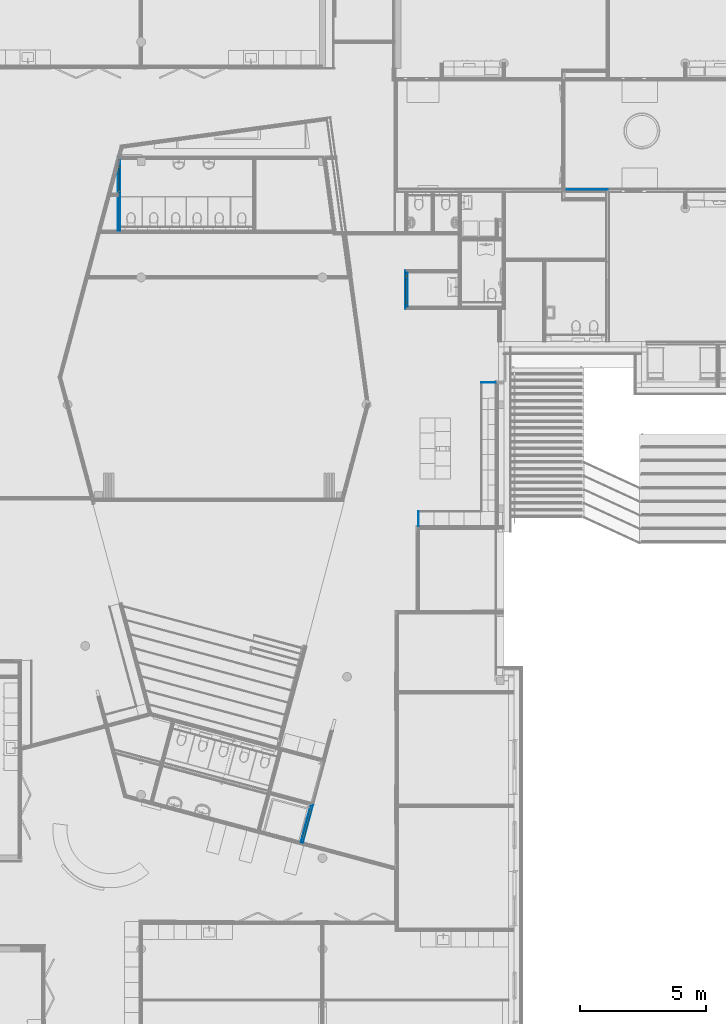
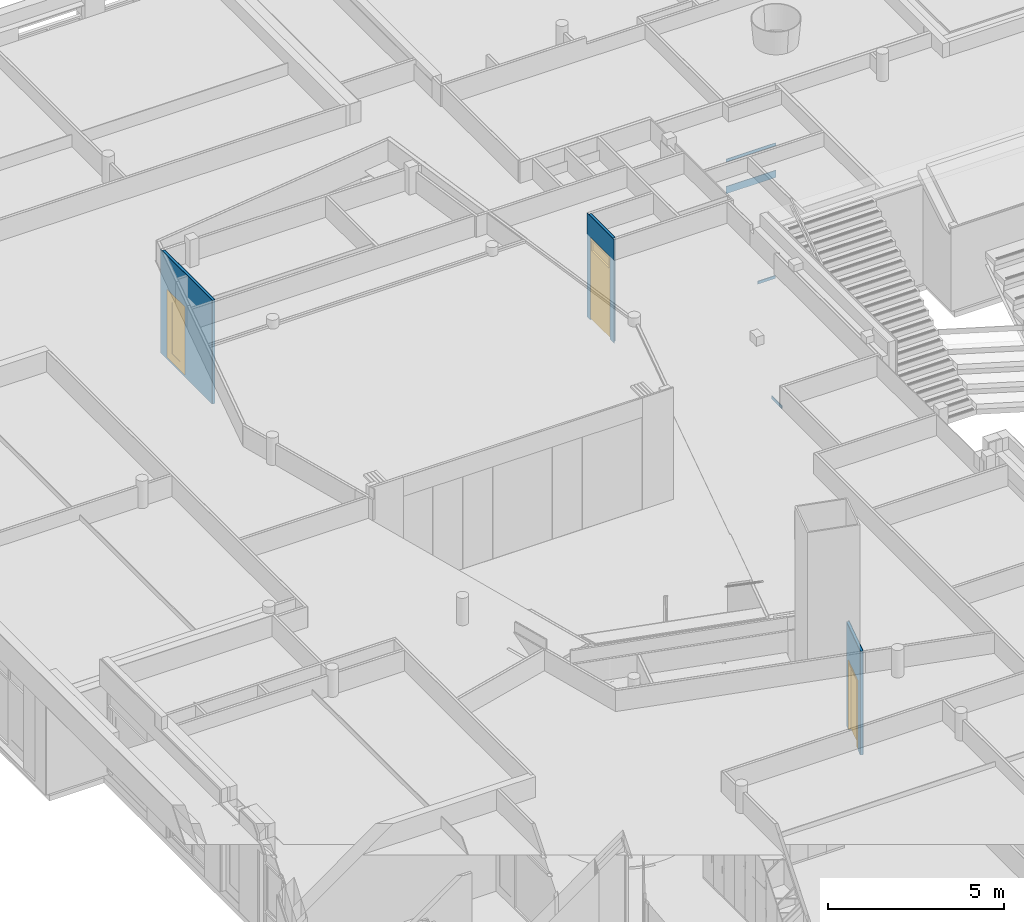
# One storey, part 3 of 167: 9 building element parts, 4 walls, 3 doors, 3 openings, 3 elements without a shape of their own.
"""IFC2X3 building model written with IfcOpenShell, lengths in millimetres."""

from ifc_helpers import new_model, entity, si_unit, converted_unit, derived_unit, money_unit, direction, frame, origin_with_axes, place, context, subcontext, project, spatial, open_shell, faceted_brep, surface_model, source, transform, mapped, material, type_object, type_shapes, element, fill, aggregate, save


model = new_model("IFC2X3")

# Units and contexts
model_context = context("Model", 3, precision=0.01, world=origin_with_axes(), true_north=direction((0.0, 1.0)))
plan_context = context("Plan", 3, precision=0.01, world=origin_with_axes(), true_north=direction((0.0, 1.0)))
body_context = subcontext(model_context, "Body", "Model", "MODEL_VIEW")
ifc_project = project(units=[si_unit("LENGTHUNIT", "METRE", prefix="MILLI"), si_unit("AREAUNIT", "SQUARE_METRE"), si_unit("VOLUMEUNIT", "CUBIC_METRE"), converted_unit("PLANEANGLEUNIT", "DEGREE", entity("IfcPlaneAngleMeasure", 0.0174532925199), si_unit("PLANEANGLEUNIT", "RADIAN"), dimensions=[0, 0, 0, 0, 0, 0, 0]), si_unit("SOLIDANGLEUNIT", "STERADIAN"), money_unit("EUR"), converted_unit("TIMEUNIT", "Year", entity("IfcTimeMeasure", 31556926.0), si_unit("TIMEUNIT", "SECOND"), dimensions=[0, 0, 1, 0, 0, 0, 0]), si_unit("MASSUNIT", "GRAM", prefix="KILO"), si_unit("THERMODYNAMICTEMPERATUREUNIT", "DEGREE_CELSIUS"), si_unit("LUMINOUSINTENSITYUNIT", "LUMEN"), si_unit("ENERGYUNIT", "JOULE", prefix="MEGA"), derived_unit("THERMALCONDUCTANCEUNIT", [(si_unit("POWERUNIT", "WATT"), 1), (si_unit("LENGTHUNIT", "METRE"), -1), (si_unit("THERMODYNAMICTEMPERATUREUNIT", "KELVIN"), -1)]), derived_unit("SPECIFICHEATCAPACITYUNIT", [(si_unit("ENERGYUNIT", "JOULE"), 1), (si_unit("MASSUNIT", "GRAM", prefix="KILO"), -1), (si_unit("THERMODYNAMICTEMPERATUREUNIT", "KELVIN"), -1)]), derived_unit("MASSDENSITYUNIT", [(si_unit("MASSUNIT", "GRAM", prefix="KILO"), 1), (si_unit("VOLUMEUNIT", "CUBIC_METRE"), -1)])], contexts=[model_context, plan_context])

# Site, building, storey
site_placement = place(None, origin_with_axes())
site = spatial("IfcSite", under=ifc_project, at=site_placement, Name="Site", CompositionType="ELEMENT")
building_placement = place(site_placement, origin_with_axes())
building = spatial("IfcBuilding", under=site, at=building_placement, Name="Naam gebouw", CompositionType="ELEMENT")
storey_placement = place(building_placement, origin_with_axes())
storey = spatial("IfcBuildingStorey", under=building, at=storey_placement, Name="Begane grond", CompositionType="ELEMENT", Elevation=0.0)

# Walls
ifc_material_1 = material(Name="Hout - Spaanplaat")
wall_type_1 = type_object("IfcWallType", Name="Hout - Spaanplaat 25", PredefinedType="NOTDEFINED")
wall_1_placement = place(storey_placement, frame((27925.0, 29661.7322881, 2700.0), z_axis=(0.0, 0.0, 1.0), x_axis=(1.0, 0.0, 0.0)))
element("IfcWall", 1, at=wall_1_placement, inside=storey, type_object=wall_type_1, material=ifc_material_1, Name="21_Wand_Wand-x", context=body_context, shape_type="Brep", body=[
    faceted_brep([(-25.0, 25.0, 0.0), (550.0, 25.0, 0.0), (550.0, 0.0, 0.0), (-25.0, 0.0, 0.0), (-25.0, 25.0, 100.0), (550.0, 25.0, 100.0), (550.0, 0.0, 100.0), (-25.0, 0.0, 100.0)], [[[0, 1, 2, 3]], [[4, 5, 1, 0]], [[2, 1, 5, 6]], [[3, 2, 6, 7]], [[4, 0, 3, 7]], [[7, 6, 5, 4]]]),
])
wall_2_placement = place(storey_placement, frame((25430.0, 23979.2322881, 2700.0), z_axis=(0.0, 0.0, 1.0), x_axis=(0.0, 1.0, 0.0)))
element("IfcWall", 2, at=wall_2_placement, inside=storey, type_object=wall_type_1, material=ifc_material_1, Name="21_Wand_Wand-x", context=body_context, shape_type="Brep", body=[
    faceted_brep([(587.5, 25.0, 0.0), (587.5, 0.0, 0.0), (0.0, 0.0, 0.0), (0.0, 25.0, 0.0), (587.5, 25.0, 100.0), (587.5, 0.0, 100.0), (0.0, 0.0, 100.0), (0.0, 25.0, 100.0)], [[[0, 1, 2, 3]], [[1, 0, 4, 5]], [[1, 5, 6, 2]], [[7, 3, 2, 6]], [[4, 0, 3, 7]], [[5, 4, 7, 6]]]),
])

# Door
door_style_1 = type_object("IfcDoorStyle", Name="D1 24", ConstructionType="NOTDEFINED", OperationType="SINGLE_SWING_LEFT", ParameterTakesPrecedence=False, Sizeable=False)
shared_shape_1 = source(origin_with_axes(), body_context, "Body", "SurfaceModel", [
    faceted_brep([(450.0, -40.0, 0.0), (450.0, -114.0, 0.0), (450.0, -114.0, 2300.0), (450.0, -40.0, 2300.0), (475.0, -40.0, 0.0), (475.0, 0.0, 0.0), (517.0, 0.0, 0.0), (517.0, -114.0, 0.0), (517.0, -114.0, 2300.0), (475.0, -40.0, 2300.0), (517.0, 0.0, 2300.0), (475.0, 0.0, 2300.0)], [[[0, 1, 2, 3]], [[4, 5, 6, 7, 1, 0]], [[1, 7, 8, 2]], [[9, 3, 2, 8, 10, 11]], [[9, 4, 0, 3]], [[11, 5, 4, 9]], [[11, 10, 6, 5]], [[6, 10, 8, 7]]]),
    faceted_brep([(-475.0, -40.0, 2300.0), (-475.0, 0.0, 2300.0), (-517.0, 0.0, 2300.0), (-517.0, -114.0, 2300.0), (-450.0, -114.0, 2300.0), (-450.0, -40.0, 2300.0), (-475.0, -40.0, 0.0), (-475.0, 0.0, 0.0), (-517.0, 0.0, 0.0), (-517.0, -114.0, 0.0), (-450.0, -114.0, 0.0), (-450.0, -40.0, 0.0)], [[[0, 1, 2, 3, 4, 5]], [[0, 6, 7, 1]], [[7, 8, 2, 1]], [[2, 8, 9, 3]], [[3, 9, 10, 4]], [[5, 4, 10, 11]], [[5, 11, 6, 0]], [[6, 11, 10, 9, 8, 7]]]),
    faceted_brep([(475.0, 0.0, 2325.0), (-475.0, 0.0, 2325.0), (-475.0, 0.0, 2300.0), (-517.0, 0.0, 2300.0), (-517.0, 0.0, 2367.0), (517.0, 0.0, 2367.0), (517.0, 0.0, 2300.0), (475.0, 0.0, 2300.0), (475.0, -40.0, 2325.0), (-475.0, -40.0, 2325.0), (-475.0, -40.0, 2300.0), (-450.0, -40.0, 2300.0), (-450.0, -114.0, 2300.0), (-517.0, -114.0, 2300.0), (-517.0, -114.0, 2367.0), (517.0, -114.0, 2367.0), (517.0, -114.0, 2300.0), (475.0, -40.0, 2300.0), (450.0, -114.0, 2300.0), (450.0, -40.0, 2300.0)], [[[0, 1, 2, 3, 4, 5, 6, 7]], [[0, 8, 9, 1]], [[1, 9, 10, 2]], [[10, 11, 12, 13, 3, 2]], [[4, 3, 13, 14]], [[5, 4, 14, 15]], [[6, 5, 15, 16]], [[17, 7, 6, 16, 18, 19]], [[7, 17, 8, 0]], [[10, 9, 8, 17, 19, 11]], [[19, 18, 12, 11]], [[12, 18, 16, 15, 14, 13]]]),
    faceted_brep([(-475.0, 0.0, 300.0), (-225.0, 0.0, 300.0), (-225.0, -40.0, 300.0), (-475.0, -40.0, 300.0), (-475.0, 0.0, 2075.0), (-225.0, 0.0, 2075.0), (-225.0, -40.0, 2075.0), (-475.0, -40.0, 2075.0)], [[[0, 1, 2, 3]], [[0, 4, 5, 1]], [[1, 5, 6, 2]], [[3, 2, 6, 7]], [[4, 0, 3, 7]], [[5, 4, 7, 6]]]),
    faceted_brep([(475.0, 0.0, 300.0), (475.0, 0.0, 2075.0), (475.0, -40.0, 2075.0), (475.0, -40.0, 300.0), (225.0, 0.0, 300.0), (225.0, 0.0, 2075.0), (225.0, -40.0, 2075.0), (225.0, -40.0, 300.0)], [[[0, 1, 2, 3]], [[0, 4, 5, 1]], [[1, 5, 6, 2]], [[3, 2, 6, 7]], [[4, 0, 3, 7]], [[5, 4, 7, 6]]]),
    faceted_brep([(-475.0, 0.0, 0.0), (475.0, 0.0, 0.0), (475.0, -40.0, 0.0), (-475.0, -40.0, 0.0), (-475.0, 0.0, 300.0), (-225.0, 0.0, 300.0), (225.0, 0.0, 300.0), (475.0, 0.0, 300.0), (475.0, -40.0, 300.0), (225.0, -40.0, 300.0), (-225.0, -40.0, 300.0), (-475.0, -40.0, 300.0)], [[[0, 1, 2, 3]], [[0, 4, 5, 6, 7, 1]], [[1, 7, 8, 2]], [[3, 2, 8, 9, 10, 11]], [[4, 0, 3, 11]], [[5, 4, 11, 10]], [[6, 5, 10, 9]], [[7, 6, 9, 8]]]),
    faceted_brep([(-475.0, 0.0, 2325.0), (-475.0, 0.0, 2075.0), (-475.0, -40.0, 2075.0), (-475.0, -40.0, 2325.0), (475.0, 0.0, 2325.0), (475.0, 0.0, 2075.0), (225.0, 0.0, 2075.0), (-225.0, 0.0, 2075.0), (-225.0, -40.0, 2075.0), (225.0, -40.0, 2075.0), (475.0, -40.0, 2075.0), (475.0, -40.0, 2325.0)], [[[0, 1, 2, 3]], [[0, 4, 5, 6, 7, 1]], [[1, 7, 8, 2]], [[3, 2, 8, 9, 10, 11]], [[4, 0, 3, 11]], [[5, 4, 11, 10]], [[6, 5, 10, 9]], [[7, 6, 9, 8]]]),
    surface_model("IfcShellBasedSurfaceModel", [(-225.0, -14.0, 300.0), (-225.0, -14.0, 2075.0), (225.0, -14.0, 2075.0), (225.0, -14.0, 300.0)], [open_shell([[[0, 1, 2, 3]]])]),
    surface_model("IfcShellBasedSurfaceModel", [(-225.0, -26.0, 300.0), (225.0, -26.0, 300.0), (225.0, -26.0, 2075.0), (-225.0, -26.0, 2075.0)], [open_shell([[[0, 1, 2, 3]]])]),
])
type_shapes(door_style_1, [shared_shape_1])
wall_5_placement = place(storey_placement, frame((13530.0673236, 38589.2116284, -100.0), z_axis=(0.0, 0.0, 1.0), x_axis=(0.0, -1.0, 0.0)))
opening_1_placement = place(wall_5_placement, frame((845.51502748, 0.0, 102.0), z_axis=(0.0, 0.0, 1.0), x_axis=(1.0, 0.0, 0.0)))
door_1_placement = place(opening_1_placement, frame((517.0, 0.0, 0.0), z_axis=(0.0, 0.0, 1.0), x_axis=(-1.0, 0.0, 0.0)))
door_1 = element("IfcDoor", 3, at=door_1_placement, inside=storey, type_object=door_style_1, Name="32_Deur_Hi-01a", ObjectType="DOOR", OverallHeight=2367.0, OverallWidth=1034.0, context=body_context, shape_type="MappedRepresentation", body=[
    mapped(shared_shape_1, transform((517.0, 50.0, 0.0))),
])

door_style_2 = type_object("IfcDoorStyle", Name="D1 24", ConstructionType="NOTDEFINED", OperationType="SINGLE_SWING_RIGHT", ParameterTakesPrecedence=False, Sizeable=False)
shared_shape_2 = source(origin_with_axes(), body_context, "Body", "Brep", [
    faceted_brep([(-450.0, -40.0, 0.0), (-450.0, -40.0, 2300.0), (-450.0, -114.0, 2300.0), (-450.0, -114.0, 0.0), (-475.0, -40.0, 2300.0), (-475.0, -40.0, 0.0), (-475.0, 0.0, 2300.0), (-517.0, 0.0, 2300.0), (-517.0, -114.0, 2300.0), (-517.0, -114.0, 0.0), (-517.0, 0.0, 0.0), (-475.0, 0.0, 0.0)], [[[0, 1, 2, 3]], [[4, 1, 0, 5]], [[4, 6, 7, 8, 2, 1]], [[3, 2, 8, 9]], [[5, 0, 3, 9, 10, 11]], [[6, 4, 5, 11]], [[6, 11, 10, 7]], [[10, 9, 8, 7]]]),
    faceted_brep([(475.0, -40.0, 2300.0), (450.0, -40.0, 2300.0), (450.0, -114.0, 2300.0), (517.0, -114.0, 2300.0), (517.0, 0.0, 2300.0), (475.0, 0.0, 2300.0), (475.0, -40.0, 0.0), (450.0, -40.0, 0.0), (450.0, -114.0, 0.0), (517.0, -114.0, 0.0), (517.0, 0.0, 0.0), (475.0, 0.0, 0.0)], [[[0, 1, 2, 3, 4, 5]], [[1, 0, 6, 7]], [[1, 7, 8, 2]], [[3, 2, 8, 9]], [[4, 3, 9, 10]], [[11, 5, 4, 10]], [[0, 5, 11, 6]], [[6, 11, 10, 9, 8, 7]]]),
    faceted_brep([(-475.0, 0.0, 2325.0), (-475.0, 0.0, 2300.0), (-517.0, 0.0, 2300.0), (-517.0, 0.0, 2367.0), (517.0, 0.0, 2367.0), (517.0, 0.0, 2300.0), (475.0, 0.0, 2300.0), (475.0, 0.0, 2325.0), (-475.0, -40.0, 2325.0), (-475.0, -40.0, 2300.0), (-450.0, -40.0, 2300.0), (-450.0, -114.0, 2300.0), (-517.0, -114.0, 2300.0), (-517.0, -114.0, 2367.0), (517.0, -114.0, 2367.0), (517.0, -114.0, 2300.0), (475.0, -40.0, 2300.0), (450.0, -114.0, 2300.0), (450.0, -40.0, 2300.0), (475.0, -40.0, 2325.0)], [[[0, 1, 2, 3, 4, 5, 6, 7]], [[1, 0, 8, 9]], [[9, 10, 11, 12, 2, 1]], [[2, 12, 13, 3]], [[3, 13, 14, 4]], [[4, 14, 15, 5]], [[16, 6, 5, 15, 17, 18]], [[7, 6, 16, 19]], [[0, 7, 19, 8]], [[16, 18, 10, 9, 8, 19]], [[10, 18, 17, 11]], [[17, 15, 14, 13, 12, 11]]]),
    faceted_brep([(475.0, 0.0, 0.0), (475.0, -40.0, 0.0), (-475.0, -40.0, 0.0), (-475.0, 0.0, 0.0), (475.0, 0.0, 2325.0), (475.0, -40.0, 2325.0), (-475.0, -40.0, 2325.0), (-475.0, 0.0, 2325.0)], [[[0, 1, 2, 3]], [[4, 5, 1, 0]], [[1, 5, 6, 2]], [[3, 2, 6, 7]], [[0, 3, 7, 4]], [[7, 6, 5, 4]]]),
])
type_shapes(door_style_2, [shared_shape_2])
wall_6_placement = place(storey_placement, frame((21185.4222294, 12926.2225005, -100.0), z_axis=(0.0, 0.0, 1.0), x_axis=(-0.258819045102, -0.965925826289, 0.0)))
opening_2_placement = place(wall_6_placement, frame((791.861926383, 0.0, 100.0), z_axis=(0.0, 0.0, 1.0), x_axis=(1.0, 0.0, 0.0)))
door_2_placement = place(opening_2_placement, frame((-517.0, 0.0, 0.0), z_axis=(0.0, 0.0, 1.0), x_axis=(1.0, 0.0, 0.0)))
door_2 = element("IfcDoor", 4, at=door_2_placement, inside=storey, type_object=door_style_2, Name="_Deur_lift", ObjectType="DOOR", OverallHeight=2367.0, OverallWidth=1034.0, context=body_context, shape_type="MappedRepresentation", body=[
    mapped(shared_shape_2, transform((517.0, 50.0, 0.0))),
])

door_style_3 = type_object("IfcDoorStyle", Name="D1 bl 24", ConstructionType="NOTDEFINED", OperationType="SINGLE_SWING_LEFT", ParameterTakesPrecedence=False, Sizeable=False)
shared_shape_3 = source(origin_with_axes(), body_context, "Body", "SurfaceModel", [
    faceted_brep([(500.0, -40.0, 2325.0), (500.0, -40.0, 0.0), (500.0, -114.0, 0.0), (500.0, -114.0, 2300.0), (500.0, -114.0, 2375.0), (500.0, 0.0, 2375.0), (500.0, 0.0, 2325.0), (525.0, -40.0, 2325.0), (525.0, -40.0, 0.0), (525.0, 0.0, 0.0), (567.0, 0.0, 0.0), (567.0, -114.0, 0.0), (567.0, -114.0, 2733.0), (500.0, -114.0, 2733.0), (500.0, 0.0, 2733.0), (525.0, 0.0, 2325.0), (567.0, 0.0, 2733.0)], [[[0, 1, 2, 3, 4, 5, 6]], [[0, 7, 8, 1]], [[8, 9, 10, 11, 2, 1]], [[4, 3, 2, 11, 12, 13]], [[14, 5, 4, 13]], [[15, 6, 5, 14, 16, 10, 9]], [[6, 15, 7, 0]], [[9, 8, 7, 15]], [[10, 16, 12, 11]], [[16, 14, 13, 12]]]),
    faceted_brep([(-525.0, 0.0, 2325.0), (-525.0, 0.0, 0.0), (-567.0, 0.0, 0.0), (-567.0, 0.0, 2733.0), (-500.0, 0.0, 2733.0), (-500.0, 0.0, 2375.0), (-500.0, 0.0, 2325.0), (-525.0, -40.0, 2325.0), (-525.0, -40.0, 0.0), (-500.0, -40.0, 0.0), (-500.0, -114.0, 0.0), (-567.0, -114.0, 0.0), (-567.0, -114.0, 2733.0), (-500.0, -114.0, 2733.0), (-500.0, -114.0, 2375.0), (-500.0, -40.0, 2325.0), (-500.0, -114.0, 2300.0)], [[[0, 1, 2, 3, 4, 5, 6]], [[0, 7, 8, 1]], [[8, 9, 10, 11, 2, 1]], [[3, 2, 11, 12]], [[4, 3, 12, 13]], [[5, 4, 13, 14]], [[15, 6, 5, 14, 16, 10, 9]], [[6, 15, 7, 0]], [[8, 7, 15, 9]], [[14, 13, 12, 11, 10, 16]]]),
    faceted_brep([(567.0, 0.0, 2800.0), (567.0, -114.0, 2800.0), (567.0, -114.0, 2733.0), (567.0, 0.0, 2733.0), (-567.0, 0.0, 2800.0), (-567.0, -114.0, 2800.0), (-567.0, -114.0, 2733.0), (-500.0, -114.0, 2733.0), (500.0, -114.0, 2733.0), (500.0, 0.0, 2733.0), (-500.0, 0.0, 2733.0), (-567.0, 0.0, 2733.0)], [[[0, 1, 2, 3]], [[4, 5, 1, 0]], [[1, 5, 6, 7, 8, 2]], [[3, 2, 8, 9]], [[0, 3, 9, 10, 11, 4]], [[11, 6, 5, 4]], [[10, 7, 6, 11]], [[9, 8, 7, 10]]]),
    faceted_brep([(-500.0, -40.0, 2325.0), (-500.0, -40.0, 2300.0), (-500.0, -114.0, 2300.0), (-500.0, -114.0, 2375.0), (-500.0, 0.0, 2375.0), (-500.0, 0.0, 2325.0), (500.0, -40.0, 2325.0), (500.0, -40.0, 2300.0), (500.0, -114.0, 2300.0), (500.0, -114.0, 2375.0), (500.0, 0.0, 2375.0), (500.0, 0.0, 2325.0)], [[[0, 1, 2, 3, 4, 5]], [[0, 6, 7, 1]], [[7, 8, 2, 1]], [[8, 9, 3, 2]], [[10, 4, 3, 9]], [[5, 4, 10, 11]], [[5, 11, 6, 0]], [[6, 11, 10, 9, 8, 7]]]),
    faceted_brep([(-525.0, 0.0, 0.0), (525.0, 0.0, 0.0), (525.0, -40.0, 0.0), (-525.0, -40.0, 0.0), (-525.0, 0.0, 2325.0), (525.0, 0.0, 2325.0), (525.0, -40.0, 2325.0), (-525.0, -40.0, 2325.0)], [[[0, 1, 2, 3]], [[0, 4, 5, 1]], [[1, 5, 6, 2]], [[3, 2, 6, 7]], [[4, 0, 3, 7]], [[5, 4, 7, 6]]]),
    surface_model("IfcShellBasedSurfaceModel", [(500.0, -54.0, 2375.0), (-500.0, -54.0, 2375.0), (-500.0, -54.0, 2733.0), (500.0, -54.0, 2733.0)], [open_shell([[[0, 1, 2, 3]]])]),
    surface_model("IfcShellBasedSurfaceModel", [(500.0, -66.0, 2375.0), (500.0, -66.0, 2733.0), (-500.0, -66.0, 2733.0), (-500.0, -66.0, 2375.0)], [open_shell([[[0, 1, 2, 3]]])]),
])
type_shapes(door_style_3, [shared_shape_3])
wall_7_placement = place(storey_placement, frame((24925.00004, 34086.3528617, -100.0), z_axis=(0.0, 0.0, 1.0), x_axis=(0.0, -1.0, 0.0)))
opening_3_placement = place(wall_7_placement, frame((711.704720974, 0.0, 100.0), z_axis=(0.0, 0.0, 1.0), x_axis=(1.0, 0.0, 0.0)))
door_3_placement = place(opening_3_placement, frame((567.0, 0.0, 0.0), z_axis=(0.0, 0.0, 1.0), x_axis=(-1.0, 0.0, 0.0)))
door_3 = element("IfcDoor", 5, at=door_3_placement, inside=storey, type_object=door_style_3, Name="32_Deur_Hi-06", ObjectType="DOOR", OverallHeight=2800.0, OverallWidth=1134.0, context=body_context, shape_type="MappedRepresentation", body=[
    mapped(shared_shape_3, transform((567.0, 50.0, 0.0))),
])

# Walls
ifc_material_2 = material(Name="Hout C")
wall_type_2 = type_object("IfcWallType", Name="Hout C 20", PredefinedType="NOTDEFINED")
wall_3_placement = place(storey_placement, frame((32918.7307537, 37350.0, 0.0), z_axis=(0.0, 0.0, 1.0), x_axis=(-1.0, 0.0, 0.0)))
element("IfcWall", 6, at=wall_3_placement, inside=storey, type_object=wall_type_2, material=ifc_material_2, Name="21_Wand_Wand-x", context=body_context, shape_type="Brep", body=[
    faceted_brep([(0.0, 20.0, 0.0), (1625.98458158, 20.0, 0.0), (1625.98458158, 0.0, 0.0), (0.0, 0.0, 0.0), (0.0, 20.0, 250.0), (1625.98458158, 20.0, 250.0), (1625.98458158, 0.0, 250.0), (0.0, 0.0, 250.0)], [[[0, 1, 2, 3]], [[4, 5, 1, 0]], [[2, 1, 5, 6]], [[3, 2, 6, 7]], [[4, 0, 3, 7]], [[7, 6, 5, 4]]]),
])
wall_4_placement = place(storey_placement, frame((32918.7307537, 37350.0, 1100.0), z_axis=(0.0, 0.0, 1.0), x_axis=(-1.0, 0.0, 0.0)))
element("IfcWall", 7, at=wall_4_placement, inside=storey, type_object=wall_type_2, material=ifc_material_2, Name="21_Wand_Wand-x", context=body_context, shape_type="Brep", body=[
    faceted_brep([(0.0, 20.0, 0.0), (1625.98458158, 20.0, 0.0), (1625.98458158, 0.0, 0.0), (0.0, 0.0, 0.0), (0.0, 20.0, 100.0), (1625.98458158, 20.0, 100.0), (1625.98458158, 0.0, 100.0), (0.0, 0.0, 100.0)], [[[0, 1, 2, 3]], [[4, 5, 1, 0]], [[2, 1, 5, 6]], [[3, 2, 6, 7]], [[4, 0, 3, 7]], [[7, 6, 5, 4]]]),
])

# Wall, opening
wall_type_3 = type_object("IfcWallType", Name="_TenW_22_Metalstud 100 enkel gipsvezelplaat 100", PredefinedType="NOTDEFINED")
wall_5 = element("IfcWall", 8, at=wall_5_placement, inside=storey, type_object=wall_type_3, Name="22_Wand_Wand-x")
opening_1 = element("IfcOpeningElement", 9, at=opening_1_placement, cuts=wall_5, Name="32_Deur_Hi-01a", context=body_context, shape_type="Brep", body=[
    faceted_brep([(517.0, -200.0, 2367.0), (517.0, -200.0, 0.0), (517.0, 100.0, 0.0), (517.0, 100.0, 2367.0), (-517.0, -200.0, 2367.0), (-517.0, -200.0, 0.0), (-517.0, 100.0, 0.0), (-517.0, 100.0, 2367.0)], [[[0, 1, 2, 3]], [[0, 4, 5, 1]], [[1, 5, 6, 2]], [[3, 2, 6, 7]], [[4, 0, 3, 7]], [[5, 4, 7, 6]]]),
])

fill(opening_1, door_1)

# Building element part
ifc_material_3 = material(Name="Gipsplaat watervast")
building_element_part_1_placement = place(wall_5_placement, origin_with_axes())
building_element_part_1 = element("IfcBuildingElementPart", 10, at=building_element_part_1_placement, material=ifc_material_3, Name="Gipsplaat watervast", context=body_context, shape_type="Brep", body=[
    faceted_brep([(50.0, 37.5, 3630.0), (50.0, 37.5, 30.0), (2887.51502748, 37.5, 30.0), (2887.51502748, 37.5, 3630.0), (1362.51502748, 37.5, 102.0), (328.51502748, 37.5, 102.0), (328.51502748, 37.5, 2469.0), (1362.51502748, 37.5, 2469.0), (50.0, 50.0, 3630.0), (50.0, 50.0, 30.0), (2887.51502748, 50.0, 30.0), (2887.51502748, 50.0, 3630.0), (1362.51502748, 50.0, 102.0), (328.51502748, 50.0, 102.0), (328.51502748, 50.0, 2469.0), (1362.51502748, 50.0, 2469.0)], [[[0, 1, 2, 3], [4, 5, 6, 7]], [[8, 9, 1, 0]], [[9, 10, 2, 1]], [[3, 2, 10, 11]], [[8, 0, 3, 11]], [[12, 13, 5, 4]], [[13, 14, 6, 5]], [[14, 15, 7, 6]], [[15, 12, 4, 7]], [[11, 10, 9, 8], [12, 15, 14, 13]]]),
])

ifc_material_4 = material(Name="Isolatie - Steenwol zacht")
building_element_part_2_placement = place(wall_5_placement, origin_with_axes())
building_element_part_2 = element("IfcBuildingElementPart", 11, at=building_element_part_2_placement, material=ifc_material_4, Name="Isolatie - Steenwol zacht", context=body_context, shape_type="Brep", body=[
    faceted_brep([(37.5, -37.5, 3630.0), (37.5, -37.5, 30.0), (2900.01502748, -37.5, 30.0), (2900.01502748, -37.5, 3630.0), (1362.51502748, -37.5, 102.0), (328.51502748, -37.5, 102.0), (328.51502748, -37.5, 2469.0), (1362.51502748, -37.5, 2469.0), (37.5, 37.5, 3630.0), (37.5, 37.5, 30.0), (2900.01502748, 37.5, 30.0), (2900.01502748, 37.5, 3630.0), (1362.51502748, 37.5, 102.0), (328.51502748, 37.5, 102.0), (328.51502748, 37.5, 2469.0), (1362.51502748, 37.5, 2469.0)], [[[0, 1, 2, 3], [4, 5, 6, 7]], [[8, 9, 1, 0]], [[9, 10, 2, 1]], [[3, 2, 10, 11]], [[8, 0, 3, 11]], [[12, 13, 5, 4]], [[13, 14, 6, 5]], [[14, 15, 7, 6]], [[15, 12, 4, 7]], [[11, 10, 9, 8], [12, 15, 14, 13]]]),
])

building_element_part_3_placement = place(wall_5_placement, origin_with_axes())
building_element_part_3 = element("IfcBuildingElementPart", 12, at=building_element_part_3_placement, material=ifc_material_3, Name="Gipsplaat watervast", context=body_context, shape_type="Brep", body=[
    faceted_brep([(-37.5, -50.0, 3630.0), (-37.5, -50.0, 30.0), (2887.51502748, -50.0, 30.0), (2887.51502748, -50.0, 3630.0), (0.0, -50.0, 3630.0), (1362.51502748, -50.0, 102.0), (328.51502748, -50.0, 102.0), (328.51502748, -50.0, 2469.0), (1362.51502748, -50.0, 2469.0), (-37.5, -37.5, 3630.0), (-37.5, -37.5, 30.0), (2887.51502748, -37.5, 30.0), (2887.51502748, -37.5, 3630.0), (0.0, -37.5, 3630.0), (1362.51502748, -37.5, 102.0), (328.51502748, -37.5, 102.0), (328.51502748, -37.5, 2469.0), (1362.51502748, -37.5, 2469.0)], [[[0, 1, 2, 3, 4], [5, 6, 7, 8]], [[1, 0, 9, 10]], [[10, 11, 2, 1]], [[3, 2, 11, 12]], [[0, 4, 3, 12, 13, 9]], [[14, 15, 6, 5]], [[15, 16, 7, 6]], [[16, 17, 8, 7]], [[17, 14, 5, 8]], [[11, 10, 9, 13, 12], [14, 17, 16, 15]]]),
])

aggregate(wall_5, [building_element_part_1, building_element_part_2, building_element_part_3])

# Wall, opening
wall_6 = element("IfcWall", 13, at=wall_6_placement, inside=storey, type_object=wall_type_3, Name="22_Wand_Wand-x")
opening_2 = element("IfcOpeningElement", 14, at=opening_2_placement, cuts=wall_6, Name="_Deur_lift", context=body_context, shape_type="Brep", body=[
    faceted_brep([(517.0, -100.0, 2367.0), (517.0, -100.0, 0.0), (517.0, 200.0, 0.0), (517.0, 200.0, 2367.0), (-517.0, -100.0, 2367.0), (-517.0, -100.0, 0.0), (-517.0, 200.0, 0.0), (-517.0, 200.0, 2367.0)], [[[0, 1, 2, 3]], [[0, 4, 5, 1]], [[1, 5, 6, 2]], [[3, 2, 6, 7]], [[4, 0, 3, 7]], [[5, 4, 7, 6]]]),
])

fill(opening_2, door_2)

# Building element part
building_element_part_4_placement = place(wall_6_placement, origin_with_axes())
building_element_part_4 = element("IfcBuildingElementPart", 15, at=building_element_part_4_placement, material=ifc_material_3, Name="Gipsplaat watervast", context=body_context, shape_type="Brep", body=[
    faceted_brep([(1308.86192638, 50.0000196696, 100.0), (1308.86192638, 50.0000195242, 2467.0), (274.861926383, 50.0000195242, 2467.0), (274.861926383, 50.0000196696, 100.0), (274.861926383, 50.0000156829, 30.0), (-37.4999999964, 50.0000195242, 30.0), (-37.4999995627, 50.0000020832, 3630.0), (1549.97655544, 50.0000002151, 3630.0), (1549.97655544, 50.0000000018, 30.0), (1308.86192638, 50.000002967, 30.0), (1308.86192638, 37.5, 100.0), (1308.86192638, 37.5, 2467.0), (274.861926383, 37.5, 2467.0), (274.861926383, 37.5, 100.0), (274.861926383, 37.5, 30.0), (-37.4999999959, 37.5, 30.0), (-37.4999995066, 37.5, 3630.0), (1549.97655544, 37.5000000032, 3630.0), (1549.97655544, 37.5, 30.0), (1308.86192638, 37.5, 30.0)], [[[0, 1, 2, 3, 4, 5, 6, 7, 8, 9]], [[1, 0, 10, 11]], [[2, 1, 11, 12]], [[3, 2, 12, 13]], [[3, 13, 14, 4]], [[4, 14, 15, 5]], [[16, 6, 5, 15]], [[7, 6, 16, 17]], [[7, 17, 18, 8]], [[19, 9, 8, 18]], [[10, 0, 9, 19]], [[11, 10, 19, 18, 17, 16, 15, 14, 13, 12]]]),
])

building_element_part_5_placement = place(wall_6_placement, origin_with_axes())
building_element_part_5 = element("IfcBuildingElementPart", 16, at=building_element_part_5_placement, material=ifc_material_4, Name="Isolatie - Steenwol zacht", context=body_context, shape_type="Brep", body=[
    faceted_brep([(1308.86192638, 37.5, 100.0), (1308.86192638, 37.5, 2467.0), (274.861926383, 37.5, 2467.0), (274.861926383, 37.5, 100.0), (274.861926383, 37.5, 30.0), (37.5000000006, 37.5, 30.0), (37.5000000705, 37.5, 3630.0), (1562.47655544, 37.5000000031, 3630.0), (1562.47655544, 37.5, 30.0), (1308.86192638, 37.5, 30.0), (1308.86192638, -37.4999999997, 100.0), (1308.86192638, -37.4999999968, 2467.0), (274.861926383, -37.4999999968, 2467.0), (274.861926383, -37.4999999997, 100.0), (274.861926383, -37.5, 30.0), (37.500000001, -37.5, 30.0), (37.5000001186, -37.4999999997, 3630.0), (1562.47655544, -37.4999999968, 3630.0), (1562.47655544, -37.5, 30.0), (1308.86192638, -37.5, 30.0)], [[[0, 1, 2, 3, 4, 5, 6, 7, 8, 9]], [[1, 0, 10, 11]], [[2, 1, 11, 12]], [[3, 2, 12, 13]], [[3, 13, 14, 4]], [[14, 15, 5, 4]], [[6, 5, 15, 16]], [[6, 16, 17, 7]], [[17, 18, 8, 7]], [[9, 8, 18, 19]], [[10, 0, 9, 19]], [[11, 10, 19, 18, 17, 16, 15, 14, 13, 12]]]),
])

building_element_part_6_placement = place(wall_6_placement, origin_with_axes())
building_element_part_6 = element("IfcBuildingElementPart", 17, at=building_element_part_6_placement, material=ifc_material_3, Name="Gipsplaat watervast", context=body_context, shape_type="Brep", body=[
    faceted_brep([(1308.86192638, -37.5, 100.0), (1308.86192638, -37.4999999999, 2467.0), (274.861926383, -37.4999999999, 2467.0), (274.861926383, -37.5, 100.0), (274.861926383, -37.5, 30.0), (50.0, -37.5, 30.0), (50.0, -37.4999999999, 3630.0), (1549.97655544, -37.4999999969, 3630.0), (1549.97655544, -37.5, 30.0), (1308.86192638, -37.5, 30.0), (1308.86192638, -49.9999999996, 100.0), (1308.86192638, -49.9999999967, 2467.0), (274.861926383, -49.9999999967, 2467.0), (274.861926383, -49.9999999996, 100.0), (274.861926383, -50.0, 30.0), (50.0, -50.0, 30.0), (50.0, -49.9999999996, 3630.0), (1549.97655544, -49.9999999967, 3630.0), (1549.97655544, -50.0, 30.0), (1308.86192638, -50.0, 30.0)], [[[0, 1, 2, 3, 4, 5, 6, 7, 8, 9]], [[1, 0, 10, 11]], [[2, 1, 11, 12]], [[3, 2, 12, 13]], [[3, 13, 14, 4]], [[14, 15, 5, 4]], [[6, 5, 15, 16]], [[6, 16, 17, 7]], [[17, 18, 8, 7]], [[9, 8, 18, 19]], [[10, 0, 9, 19]], [[11, 10, 19, 18, 17, 16, 15, 14, 13, 12]]]),
])

aggregate(wall_6, [building_element_part_4, building_element_part_5, building_element_part_6])

# Wall, opening
wall_7 = element("IfcWall", 18, at=wall_7_placement, inside=storey, type_object=wall_type_3, Name="22_Wand_Wand-x")
opening_3 = element("IfcOpeningElement", 19, at=opening_3_placement, cuts=wall_7, Name="32_Deur_Hi-06", context=body_context, shape_type="Brep", body=[
    faceted_brep([(567.0, -200.0, 2800.0), (567.0, -200.0, 0.0), (567.0, 100.0, 0.0), (567.0, 100.0, 2800.0), (-567.0, -200.0, 2800.0), (-567.0, -200.0, 0.0), (-567.0, 100.0, 0.0), (-567.0, 100.0, 2800.0)], [[[0, 1, 2, 3]], [[0, 4, 5, 1]], [[1, 5, 6, 2]], [[3, 2, 6, 7]], [[4, 0, 3, 7]], [[5, 4, 7, 6]]]),
])

fill(opening_3, door_3)

# Building element part
building_element_part_7_placement = place(wall_7_placement, origin_with_axes())
building_element_part_7 = element("IfcBuildingElementPart", 20, at=building_element_part_7_placement, material=ifc_material_3, Name="Gipsplaat watervast", context=body_context, shape_type="Brep", body=[
    faceted_brep([(1278.70472097, 50.0, 100.0), (1278.70472097, 50.0, 2900.0), (144.704720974, 50.0, 2900.0), (144.704720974, 50.0, 100.0), (144.704720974, 50.0, 30.0), (50.0, 50.0, 30.0), (50.0, 50.0, 3630.0), (1399.99999544, 50.0, 3630.0), (1399.99999544, 50.0, 30.0), (1278.70472097, 50.0, 30.0), (1278.70472097, 37.5, 100.0), (1278.70472097, 37.5, 2900.0), (144.704720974, 37.5, 2900.0), (144.704720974, 37.5, 100.0), (144.704720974, 37.5, 30.0), (50.0, 37.5, 30.0), (50.0, 37.5, 3630.0), (1399.99999544, 37.5, 3630.0), (1399.99999544, 37.5, 30.0), (1278.70472097, 37.5, 30.0)], [[[0, 1, 2, 3, 4, 5, 6, 7, 8, 9]], [[1, 0, 10, 11]], [[2, 1, 11, 12]], [[3, 2, 12, 13]], [[3, 13, 14, 4]], [[14, 15, 5, 4]], [[15, 16, 6, 5]], [[7, 6, 16, 17]], [[8, 7, 17, 18]], [[9, 8, 18, 19]], [[10, 0, 9, 19]], [[11, 10, 19, 18, 17, 16, 15, 14, 13, 12]]]),
])

building_element_part_8_placement = place(wall_7_placement, origin_with_axes())
building_element_part_8 = element("IfcBuildingElementPart", 21, at=building_element_part_8_placement, material=ifc_material_4, Name="Isolatie - Steenwol zacht", context=body_context, shape_type="Brep", body=[
    faceted_brep([(1278.70472097, 37.5, 100.0), (1278.70472097, 37.5, 2900.0), (144.704720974, 37.5, 2900.0), (144.704720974, 37.5, 100.0), (144.704720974, 37.5, 30.0), (37.5, 37.5, 30.0), (37.5, 37.5, 3630.0), (1412.49999544, 37.5, 3630.0), (1412.49999544, 37.5, 30.0), (1278.70472097, 37.5, 30.0), (1278.70472097, -37.5, 100.0), (1278.70472097, -37.5, 2900.0), (144.704720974, -37.5, 2900.0), (144.704720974, -37.5, 100.0), (144.704720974, -37.5, 30.0), (37.5, -37.5, 30.0), (37.5, -37.5, 3630.0), (1412.49999544, -37.5, 3630.0), (1412.49999544, -37.5, 30.0), (1278.70472097, -37.5, 30.0)], [[[0, 1, 2, 3, 4, 5, 6, 7, 8, 9]], [[1, 0, 10, 11]], [[2, 1, 11, 12]], [[3, 2, 12, 13]], [[3, 13, 14, 4]], [[14, 15, 5, 4]], [[15, 16, 6, 5]], [[7, 6, 16, 17]], [[8, 7, 17, 18]], [[9, 8, 18, 19]], [[10, 0, 9, 19]], [[11, 10, 19, 18, 17, 16, 15, 14, 13, 12]]]),
])

building_element_part_9_placement = place(wall_7_placement, origin_with_axes())
building_element_part_9 = element("IfcBuildingElementPart", 22, at=building_element_part_9_placement, material=ifc_material_3, Name="Gipsplaat watervast", context=body_context, shape_type="Brep", body=[
    faceted_brep([(1278.70472097, -37.5, 100.0), (1278.70472097, -37.5, 2900.0), (144.704720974, -37.5, 2900.0), (144.704720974, -37.5, 100.0), (144.704720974, -37.5, 30.0), (-37.5, -37.5, 30.0), (-37.5, -37.5, 3630.0), (1487.49999544, -37.5, 3630.0), (1487.49999544, -37.5, 30.0), (1278.70472097, -37.5, 30.0), (1278.70472097, -50.0, 100.0), (1278.70472097, -50.0, 2900.0), (144.704720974, -50.0, 2900.0), (144.704720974, -50.0, 100.0), (144.704720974, -50.0, 30.0), (-37.5, -50.0, 30.0), (-37.5, -50.0, 3630.0), (1487.49999544, -50.0, 3630.0), (1487.49999544, -50.0, 30.0), (1278.70472097, -50.0, 30.0)], [[[0, 1, 2, 3, 4, 5, 6, 7, 8, 9]], [[1, 0, 10, 11]], [[2, 1, 11, 12]], [[3, 2, 12, 13]], [[3, 13, 14, 4]], [[14, 15, 5, 4]], [[15, 16, 6, 5]], [[7, 6, 16, 17]], [[8, 7, 17, 18]], [[9, 8, 18, 19]], [[10, 0, 9, 19]], [[11, 10, 19, 18, 17, 16, 15, 14, 13, 12]]]),
])

aggregate(wall_7, [building_element_part_7, building_element_part_8, building_element_part_9])

save(model, "model.ifc")
